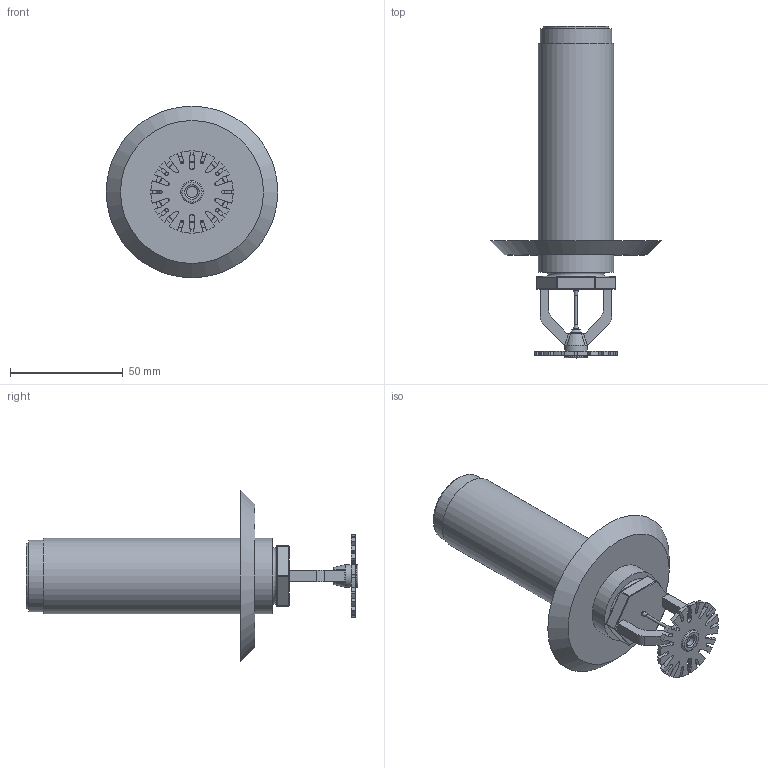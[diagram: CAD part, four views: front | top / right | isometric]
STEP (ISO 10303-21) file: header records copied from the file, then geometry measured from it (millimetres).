
FILE_DESCRIPTION(/* description */ ('VIC SPRINKLER V3614 K5.6 DRY PENDENT QUICK RESPONSE (NPT)'),/* implementation_level */ '2;1');
FILE_NAME(/* name */ 'C:\Users\Public\Documents\Victaulic.Temp\A641\Victaulic_FP-Sprinkler_V3614_DRY_QR_Pendent (NPT)_FLS_1 (25).stp',/* time_stamp */ '2024-09-24T08:14:28+02:00',/* author */ ('kkamble'),/* organization */ ('Victaulic'),/* preprocessor_version */ 'ST-DEVELOPER v18',/* originating_system */ 'Autodesk Inventor 2020',/* authorisation */ '');
FILE_SCHEMA (('AUTOMOTIVE_DESIGN { 1 0 10303 214 3 1 1 }'));
Length unit declared in the file: inch
Products named in the file (2): V3614_Flush-01.0; V3614-01
Assembly tree (1 placements, depth 2):
  V3614_Flush-01.0
    V3614-01
Bounding box: 76.2 x 147.32 x 76.2 mm (x, y, z)
Volume: 63574.2 mm3; surface area: 34148.3 mm2
Topology: 1 solids, 1 shells, 226 faces, 617 edges, 398 vertices
Faces by surface type: plane 107, cylinder 87, sphere 12, bspline 8, cone 6, torus 6
Full cylindrical faces by diameter (mm): 1.27 x1, 5.08 x2, 10.16 x2, 20.93 x1, 26.645 x1, 29.185 x1, 31.725 x1, 33.401 x2
Entity records: 7723 total; most frequent: CARTESIAN_POINT 1559, DIRECTION 1263, ORIENTED_EDGE 1226, EDGE_CURVE 613, AXIS2_PLACEMENT_3D 460, VERTEX_POINT 398, LINE 343, VECTOR 343
